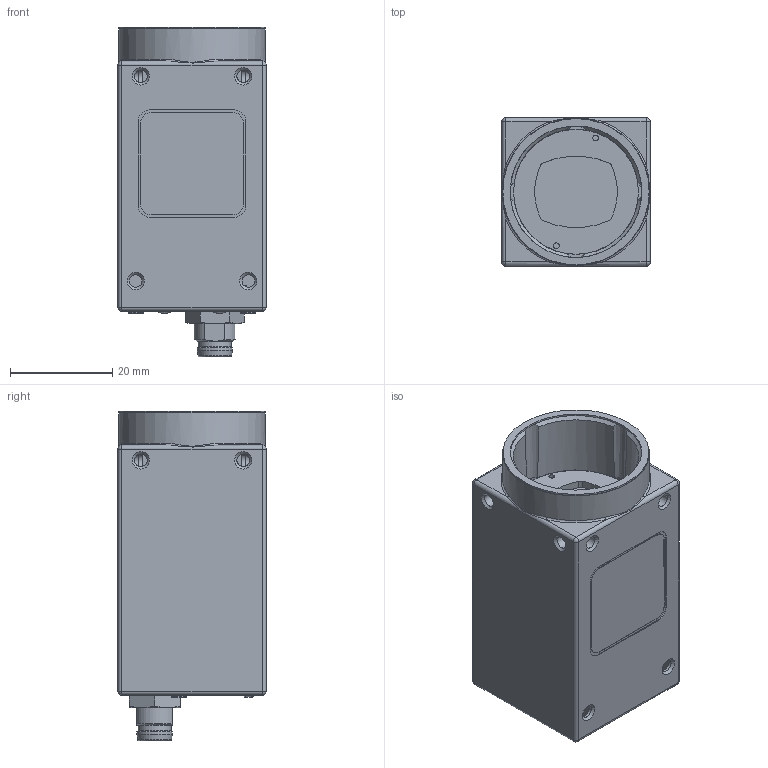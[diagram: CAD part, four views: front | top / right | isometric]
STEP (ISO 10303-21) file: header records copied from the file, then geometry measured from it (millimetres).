
FILE_DESCRIPTION( ( 'Unknown' ), '1' );
FILE_NAME( 'C:/Users/rih/Desktop/CAD-MarCom/11165943_VCXG-24C.stp', '14.10.2014', ( 'Unknown' ), ( 'Unknown' ), 'PSStep 15.0.49', 'Unknown', ' ' );
FILE_SCHEMA( ( 'AUTOMOTIVE_DESIGN { 1 0 10303 214 1 1 1 1 }' ) );
Length unit declared in the file: millimetre
Products named in the file (7): 11080147
Bounding box: 29 x 29 x 64.4 mm (x, y, z)
Volume: 13473.4 mm3; surface area: 23565.7 mm2
Topology: 7 solids, 12 shells, 2235 faces, 5990 edges, 3882 vertices
Faces by surface type: plane 1290, cylinder 728, cone 72, torus 53, sphere 48, bspline 36, extrusion 8
Full cylindrical faces by diameter (mm): 0.217 x1, 0.6 x16, 0.9 x117, 1.1 x2, 1.4 x4, 1.567 x2, 1.6 x2, 1.9 x4, 2.459 x10, 3 x4, 6.5 x1, 6.9 x1, 8.4 x1, 9 x1, 9.4 x1, 19 x1, 24.4 x1, 25.7 x1, 26 x1, 28.6 x1, 28.7 x1
Entity records: 88492 total; most frequent: CARTESIAN_POINT 16298, DIRECTION 11161, ORIENTED_EDGE 11090, EDGE_CURVE 5545, AXIS2_PLACEMENT_3D 3846, VERTEX_POINT 3692, VECTOR 3469, LINE 3461
